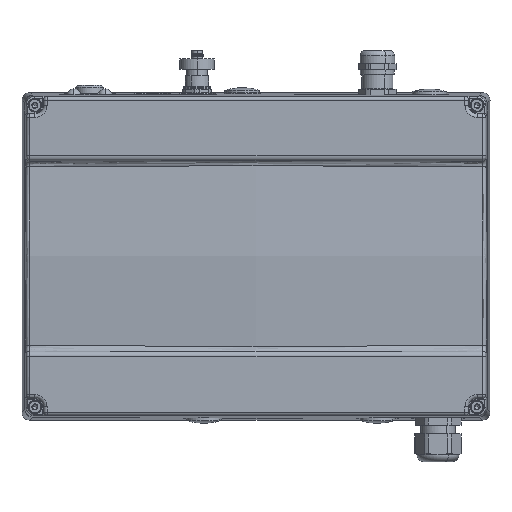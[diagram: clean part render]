
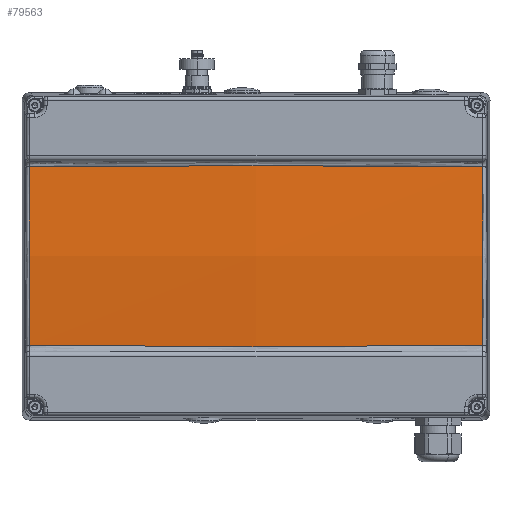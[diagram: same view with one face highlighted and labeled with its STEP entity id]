
A CAD part, top view. The second image highlights one B-rep face of the part: STEP entity #79563.
In plain terms, the highlighted toroidal (fillet/blend) face has major radius 2503.01 mm and minor radius 500 mm.
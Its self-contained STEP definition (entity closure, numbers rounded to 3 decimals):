
#79476=AXIS2_PLACEMENT_3D('Circle Axis2P3D',#79474,#79475,$) ;
#79489=AXIS2_PLACEMENT_3D('Torus Axis2P3D',#79486,#79487,#79488) ;
#79504=AXIS2_PLACEMENT_3D('Circle Axis2P3D',#79502,#79503,$) ;
#79536=AXIS2_PLACEMENT_3D('Circle Axis2P3D',#79534,#79535,$) ;
#79550=AXIS2_PLACEMENT_3D('Circle Axis2P3D',#79548,#79549,$) ;
#79409=CARTESIAN_POINT('Vertex',(-265.4,51.501,82.019)) ;
#79413=CARTESIAN_POINT('Control Point',(-265.4,51.501,82.019)) ;
#79414=CARTESIAN_POINT('Control Point',(-265.079,51.501,82.033)) ;
#79415=CARTESIAN_POINT('Control Point',(-264.758,51.501,82.047)) ;
#79416=CARTESIAN_POINT('Control Point',(-264.437,51.501,82.061)) ;
#79417=CARTESIAN_POINT('Control Point',(-256.688,51.504,82.394)) ;
#79418=CARTESIAN_POINT('Control Point',(-248.939,51.53,82.7)) ;
#79419=CARTESIAN_POINT('Control Point',(-241.509,51.568,82.97)) ;
#79420=CARTESIAN_POINT('Control Point',(-219.217,51.713,83.705)) ;
#79421=CARTESIAN_POINT('Control Point',(-196.922,51.906,84.228)) ;
#79422=CARTESIAN_POINT('Control Point',(-182.062,52.024,84.485)) ;
#79423=CARTESIAN_POINT('Control Point',(-159.763,52.15,84.739)) ;
#79424=CARTESIAN_POINT('Control Point',(-137.462,52.18,84.796)) ;
#79425=CARTESIAN_POINT('Control Point',(-130.029,52.178,84.793)) ;
#79426=CARTESIAN_POINT('Control Point',(-107.73,52.139,84.719)) ;
#79427=CARTESIAN_POINT('Control Point',(-85.432,52.006,84.447)) ;
#79428=CARTESIAN_POINT('Control Point',(-70.575,51.885,84.177)) ;
#79429=CARTESIAN_POINT('Control Point',(-48.46,51.694,83.64)) ;
#79430=CARTESIAN_POINT('Control Point',(-26.348,51.557,82.893)) ;
#79431=CARTESIAN_POINT('Control Point',(-19.099,51.522,82.625)) ;
#79432=CARTESIAN_POINT('Control Point',(-11.849,51.501,82.334)) ;
#79433=CARTESIAN_POINT('Control Point',(-4.6,51.501,82.019)) ;
#79434=CARTESIAN_POINT('Vertex',(-4.6,51.501,82.019)) ;
#79464=CARTESIAN_POINT('Vertex',(-4.185,51.501,82.001)) ;
#79474=CARTESIAN_POINT('Axis2P3D Location',(-135.,51.501,-2915.5)) ;
#79486=CARTESIAN_POINT('Axis2P3D Location',(-135.,0.,-2915.5)) ;
#79492=CARTESIAN_POINT('Control Point',(-265.815,-51.501,82.001)) ;
#79493=CARTESIAN_POINT('Control Point',(-265.723,-25.842,84.664)) ;
#79494=CARTESIAN_POINT('Control Point',(-265.692,0.,85.559)) ;
#79495=CARTESIAN_POINT('Control Point',(-265.723,25.842,84.664)) ;
#79496=CARTESIAN_POINT('Control Point',(-265.815,51.501,82.001)) ;
#79497=CARTESIAN_POINT('Vertex',(-265.815,51.501,82.001)) ;
#79499=CARTESIAN_POINT('Vertex',(-265.815,-51.501,82.001)) ;
#79502=CARTESIAN_POINT('Axis2P3D Location',(-135.,-51.501,-2915.5)) ;
#79506=CARTESIAN_POINT('Vertex',(-265.4,-51.501,82.019)) ;
#79510=CARTESIAN_POINT('Control Point',(-265.4,-51.501,82.019)) ;
#79511=CARTESIAN_POINT('Control Point',(-261.525,-51.501,82.187)) ;
#79512=CARTESIAN_POINT('Control Point',(-257.65,-51.507,82.349)) ;
#79513=CARTESIAN_POINT('Control Point',(-253.776,-51.518,82.504)) ;
#79514=CARTESIAN_POINT('Control Point',(-246.026,-51.548,82.8)) ;
#79515=CARTESIAN_POINT('Control Point',(-238.276,-51.591,83.07)) ;
#79516=CARTESIAN_POINT('Control Point',(-234.401,-51.616,83.199)) ;
#79517=CARTESIAN_POINT('Control Point',(-215.662,-51.744,83.788)) ;
#79518=CARTESIAN_POINT('Control Point',(-196.922,-51.906,84.228)) ;
#79519=CARTESIAN_POINT('Control Point',(-182.062,-52.024,84.485)) ;
#79520=CARTESIAN_POINT('Control Point',(-159.763,-52.15,84.739)) ;
#79521=CARTESIAN_POINT('Control Point',(-137.462,-52.18,84.796)) ;
#79522=CARTESIAN_POINT('Control Point',(-130.029,-52.178,84.793)) ;
#79523=CARTESIAN_POINT('Control Point',(-107.73,-52.139,84.719)) ;
#79524=CARTESIAN_POINT('Control Point',(-85.432,-52.006,84.447)) ;
#79525=CARTESIAN_POINT('Control Point',(-70.575,-51.885,84.177)) ;
#79526=CARTESIAN_POINT('Control Point',(-48.46,-51.694,83.64)) ;
#79527=CARTESIAN_POINT('Control Point',(-26.348,-51.557,82.893)) ;
#79528=CARTESIAN_POINT('Control Point',(-19.099,-51.522,82.625)) ;
#79529=CARTESIAN_POINT('Control Point',(-11.849,-51.501,82.334)) ;
#79530=CARTESIAN_POINT('Control Point',(-4.6,-51.501,82.019)) ;
#79531=CARTESIAN_POINT('Vertex',(-4.6,-51.501,82.019)) ;
#79534=CARTESIAN_POINT('Axis2P3D Location',(-135.,-51.501,-2915.5)) ;
#79538=CARTESIAN_POINT('Vertex',(-4.185,-51.501,82.001)) ;
#79542=CARTESIAN_POINT('Control Point',(-4.185,-51.501,82.001)) ;
#79543=CARTESIAN_POINT('Control Point',(-4.277,-25.842,84.664)) ;
#79544=CARTESIAN_POINT('Control Point',(-4.308,0.,85.559)) ;
#79545=CARTESIAN_POINT('Control Point',(-4.277,25.842,84.664)) ;
#79546=CARTESIAN_POINT('Control Point',(-4.185,51.501,82.001)) ;
#79548=CARTESIAN_POINT('Axis2P3D Location',(-135.,51.501,-2915.5)) ;
#79475=DIRECTION('Axis2P3D Direction',(0.,1.,0.)) ;
#79487=DIRECTION('Axis2P3D Direction',(0.,1.,0.)) ;
#79488=DIRECTION('Axis2P3D XDirection',(-0.045,0.,0.999)) ;
#79503=DIRECTION('Axis2P3D Direction',(0.,1.,-0.)) ;
#79535=DIRECTION('Axis2P3D Direction',(0.,1.,-0.)) ;
#79549=DIRECTION('Axis2P3D Direction',(0.,1.,-0.)) ;
#79554=ORIENTED_EDGE('',*,*,#79501,.T.) ;
#79555=ORIENTED_EDGE('',*,*,#79508,.F.) ;
#79556=ORIENTED_EDGE('',*,*,#79533,.F.) ;
#79557=ORIENTED_EDGE('',*,*,#79540,.F.) ;
#79558=ORIENTED_EDGE('',*,*,#79547,.T.) ;
#79559=ORIENTED_EDGE('',*,*,#79478,.T.) ;
#79560=ORIENTED_EDGE('',*,*,#79436,.T.) ;
#79561=ORIENTED_EDGE('',*,*,#79552,.T.) ;
#79563=ADVANCED_FACE('Top cover . ASM Inveor MB bedr. pre-ass - DECKEL INVEOR MB MIT SCHAUMDICHTUNG UND INVEOR BEDRUCKUNG.1\\Top cover . MET Inveor MB - INVEOR MB.1\\PartBody',(#79562),#79490,.T.) ;
#79412=B_SPLINE_CURVE_WITH_KNOTS('',5,(#79413,#79414,#79415,#79416,#79417,#79418,#79419,#79420,#79421,#79422,#79423,#79424,#79425,#79426,#79427,#79428,#79429,#79430,#79431,#79432,#79433),.UNSPECIFIED.,.F.,.U.,(6,3,3,3,3,3,6),(72.177,74.269,122.69,219.554,267.983,364.84,412.092),.UNSPECIFIED.) ;
#79491=B_SPLINE_CURVE_WITH_KNOTS('',4,(#79492,#79493,#79494,#79495,#79496),.UNSPECIFIED.,.F.,.U.,(5,5),(107.043,252.678),.UNSPECIFIED.) ;
#79509=B_SPLINE_CURVE_WITH_KNOTS('',5,(#79510,#79511,#79512,#79513,#79514,#79515,#79516,#79517,#79518,#79519,#79520,#79521,#79522,#79523,#79524,#79525,#79526,#79527,#79528,#79529,#79530),.UNSPECIFIED.,.F.,.U.,(6,3,3,3,3,3,6),(72.177,97.433,122.69,219.554,267.983,364.84,412.092),.UNSPECIFIED.) ;
#79541=B_SPLINE_CURVE_WITH_KNOTS('',4,(#79542,#79543,#79544,#79545,#79546),.UNSPECIFIED.,.F.,.U.,(5,5),(107.043,252.678),.UNSPECIFIED.) ;
#79477=CIRCLE('generated circle',#79476,3000.354) ;
#79505=CIRCLE('generated circle',#79504,3000.354) ;
#79537=CIRCLE('generated circle',#79536,3000.354) ;
#79551=CIRCLE('generated circle',#79550,3000.354) ;
#79490=TOROIDAL_SURFACE('homeo Torus',#79489,2503.013,500.) ;
#79436=EDGE_CURVE('',#79435,#79410,#79412,.F.) ;
#79478=EDGE_CURVE('',#79465,#79435,#79477,.F.) ;
#79501=EDGE_CURVE('',#79498,#79500,#79491,.F.) ;
#79508=EDGE_CURVE('',#79507,#79500,#79505,.F.) ;
#79533=EDGE_CURVE('',#79532,#79507,#79509,.F.) ;
#79540=EDGE_CURVE('',#79539,#79532,#79537,.F.) ;
#79547=EDGE_CURVE('',#79539,#79465,#79541,.T.) ;
#79552=EDGE_CURVE('',#79410,#79498,#79551,.F.) ;
#79553=EDGE_LOOP('',(#79554,#79555,#79556,#79557,#79558,#79559,#79560,#79561)) ;
#79562=FACE_OUTER_BOUND('',#79553,.T.) ;
#79410=VERTEX_POINT('',#79409) ;
#79435=VERTEX_POINT('',#79434) ;
#79465=VERTEX_POINT('',#79464) ;
#79498=VERTEX_POINT('',#79497) ;
#79500=VERTEX_POINT('',#79499) ;
#79507=VERTEX_POINT('',#79506) ;
#79532=VERTEX_POINT('',#79531) ;
#79539=VERTEX_POINT('',#79538) ;
